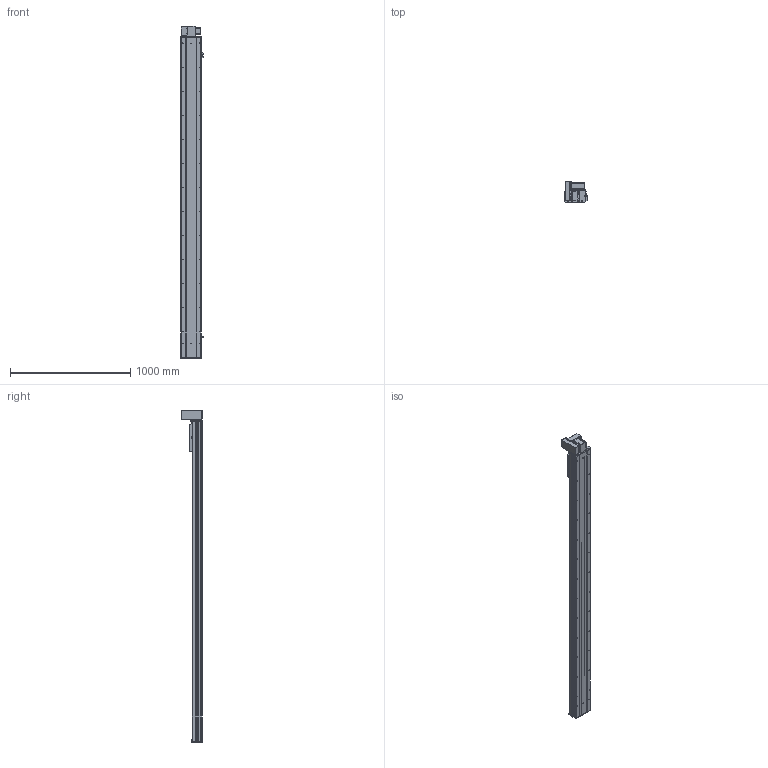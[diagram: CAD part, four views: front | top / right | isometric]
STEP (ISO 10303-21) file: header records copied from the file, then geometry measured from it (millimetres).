
FILE_DESCRIPTION (( 'STEP AP203' ), '1' );
FILE_NAME ('Y170CB-D105-S2350-UL-P400W.STEP', '2020-02-20T02:58:46', ( '微软用户' ), ( '微软中国' ), 'SwSTEP 2.0', 'SolidWorks 2017', '' );
FILE_SCHEMA (( 'CONFIG_CONTROL_DESIGN' ));
Length unit declared in the file: millimetre
Products named in the file (18): 0C--雄赽釱俋欶-170; 0B-萇儂楊擘啣; 70CB-詩湍--; san松下电机400不带刹车----; Y100-135俋离換覜ん--; 70CB-掛极-; Y170CB-陔俋离換覜結え---; --70CB --喘謫眊楊擘啣-; 70B喘謫眊----; 70CB-耜裔啣-; Y1埴倛裔; 70C--詩湍揤踡え-; 17B-耜蚾蟀諉啣----; 70CB--耜裔; 00B-俋欶BM--163; 70C-雄赽釱-奻-; B-源倛裔啣; Y170CB-D105-S2350-UL-P400W
Assembly tree (21 placements, depth 2):
  Y170CB-D105-S2350-UL-P400W
    B-源倛裔啣
    0B-萇儂楊擘啣
    san松下电机400不带刹车----
    70CB-掛极-
    --70CB --喘謫眊楊擘啣-
    70CB-耜裔啣-  x2
    70C--詩湍揤踡え-  x2
    70CB--耜裔
    70C-雄赽釱-奻-
    0C--雄赽釱俋欶-170
    70CB-詩湍--
    Y100-135俋离換覜ん--  x3
    Y170CB-陔俋离換覜結え---
    70B喘謫眊----
    Y1埴倛裔
    17B-耜蚾蟀諉啣----
    00B-俋欶BM--163
Bounding box: 183.5 x 174 x 2766 mm (x, y, z)
Volume: 11854647.5 mm3; surface area: 4279277.2 mm2
Topology: 21 solids, 21 shells, 1063 faces, 2861 edges, 1898 vertices
Faces by surface type: cylinder 577, plane 462, cone 24
Entity records: 34080 total; most frequent: CARTESIAN_POINT 6276, DIRECTION 5546, ORIENTED_EDGE 5204, EDGE_CURVE 2602, AXIS2_PLACEMENT_3D 2048, VERTEX_POINT 1728, VECTOR 1450, LINE 1450
